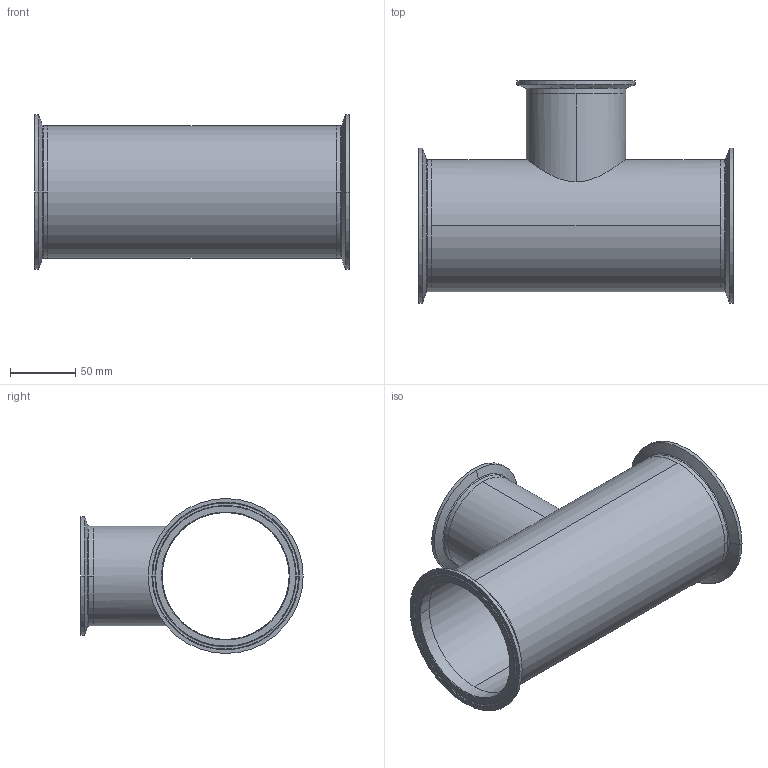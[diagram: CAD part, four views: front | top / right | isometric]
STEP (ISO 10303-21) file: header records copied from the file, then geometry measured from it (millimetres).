
FILE_DESCRIPTION (( 'STEP AP214' ), '1' );
FILE_NAME ('TEG7R6L4.0x3.0-...STEP', '2016-05-24T07:31:32', ( 'eran' ), ( '' ), 'SwSTEP 2.0', 'SolidWorks 2016', '' );
FILE_SCHEMA (( 'AUTOMOTIVE_DESIGN' ));
Length unit declared in the file: millimetre
Products named in the file (1): TEG7R6L4.0x3.0-..
Bounding box: 241.4 x 170.56 x 118.92 mm (x, y, z)
Volume: 208984.4 mm3; surface area: 193334.6 mm2
Topology: 4 solids, 4 shells, 86 faces, 212 edges, 138 vertices
Faces by surface type: bspline 30, cylinder 26, cone 18, plane 12
Entity records: 4936 total; most frequent: CARTESIAN_POINT 2839, DIRECTION 450, ORIENTED_EDGE 424, EDGE_CURVE 212, AXIS2_PLACEMENT_3D 203, CIRCLE 146, VERTEX_POINT 138, EDGE_LOOP 100
